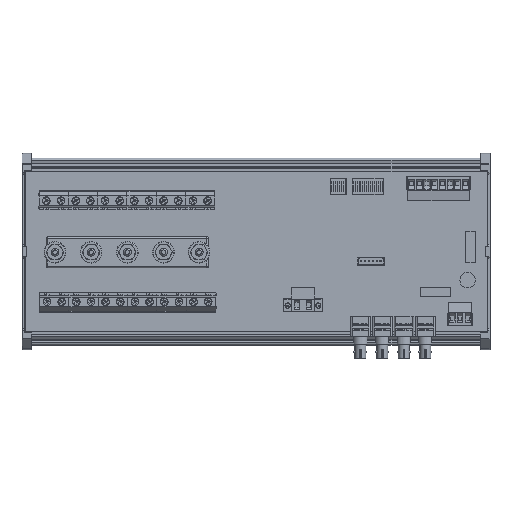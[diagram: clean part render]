
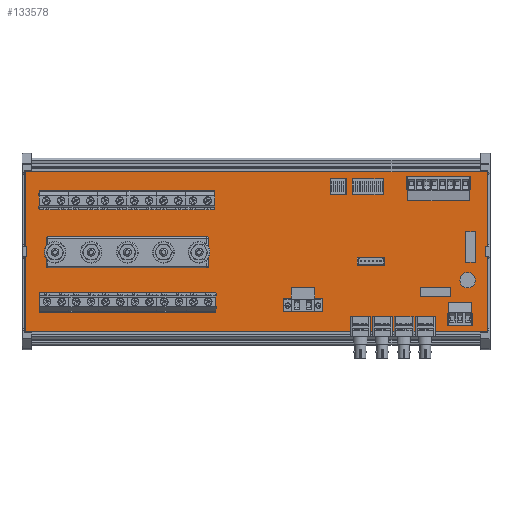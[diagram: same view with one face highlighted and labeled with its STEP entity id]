
A CAD part, top view. The second image highlights one B-rep face of the part: STEP entity #133578.
In plain terms, the highlighted planar face has unit normal (0, 0, 1).
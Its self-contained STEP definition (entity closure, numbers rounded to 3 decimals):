
#133264 = VERTEX_POINT('',#133265);
#133265 = CARTESIAN_POINT('',(0.,0.,1.6));
#133272 = PLANE('',#133273);
#133273 = AXIS2_PLACEMENT_3D('',#133274,#133275,#133276);
#133274 = CARTESIAN_POINT('',(0.,0.,0.));
#133275 = DIRECTION('',(1.,0.,0.));
#133276 = DIRECTION('',(0.,0.,1.));
#133284 = PLANE('',#133285);
#133285 = AXIS2_PLACEMENT_3D('',#133286,#133287,#133288);
#133286 = CARTESIAN_POINT('',(0.,0.,0.));
#133287 = DIRECTION('',(0.,1.,0.));
#133288 = DIRECTION('',(0.,0.,1.));
#133325 = VERTEX_POINT('',#133326);
#133326 = CARTESIAN_POINT('',(0.,108.,1.6));
#133340 = PLANE('',#133341);
#133341 = AXIS2_PLACEMENT_3D('',#133342,#133343,#133344);
#133342 = CARTESIAN_POINT('',(0.,108.,0.));
#133343 = DIRECTION('',(0.,1.,0.));
#133344 = DIRECTION('',(0.,0.,1.));
#133352 = EDGE_CURVE('',#133264,#133325,#133353,.T.);
#133353 = SURFACE_CURVE('',#133354,(#133358,#133365),.PCURVE_S1.);
#133354 = LINE('',#133355,#133356);
#133355 = CARTESIAN_POINT('',(0.,0.,1.6));
#133356 = VECTOR('',#133357,1.);
#133357 = DIRECTION('',(0.,1.,0.));
#133358 = PCURVE('',#133272,#133359);
#133359 = DEFINITIONAL_REPRESENTATION('',(#133360),#133364);
#133360 = LINE('',#133361,#133362);
#133361 = CARTESIAN_POINT('',(1.6,0.));
#133362 = VECTOR('',#133363,1.);
#133363 = DIRECTION('',(0.,-1.));
#133364 = ( GEOMETRIC_REPRESENTATION_CONTEXT(2) 
PARAMETRIC_REPRESENTATION_CONTEXT() REPRESENTATION_CONTEXT('2D SPACE',''
  ) );
#133365 = PCURVE('',#133366,#133371);
#133366 = PLANE('',#133367);
#133367 = AXIS2_PLACEMENT_3D('',#133368,#133369,#133370);
#133368 = CARTESIAN_POINT('',(0.,0.,1.6));
#133369 = DIRECTION('',(0.,0.,1.));
#133370 = DIRECTION('',(1.,0.,0.));
#133371 = DEFINITIONAL_REPRESENTATION('',(#133372),#133376);
#133372 = LINE('',#133373,#133374);
#133373 = CARTESIAN_POINT('',(0.,0.));
#133374 = VECTOR('',#133375,1.);
#133375 = DIRECTION('',(0.,1.));
#133376 = ( GEOMETRIC_REPRESENTATION_CONTEXT(2) 
PARAMETRIC_REPRESENTATION_CONTEXT() REPRESENTATION_CONTEXT('2D SPACE',''
  ) );
#133384 = VERTEX_POINT('',#133385);
#133385 = CARTESIAN_POINT('',(300.,0.,1.6));
#133392 = PLANE('',#133393);
#133393 = AXIS2_PLACEMENT_3D('',#133394,#133395,#133396);
#133394 = CARTESIAN_POINT('',(300.,0.,0.));
#133395 = DIRECTION('',(1.,0.,0.));
#133396 = DIRECTION('',(0.,0.,1.));
#133435 = VERTEX_POINT('',#133436);
#133436 = CARTESIAN_POINT('',(300.,108.,1.6));
#133457 = EDGE_CURVE('',#133384,#133435,#133458,.T.);
#133458 = SURFACE_CURVE('',#133459,(#133463,#133470),.PCURVE_S1.);
#133459 = LINE('',#133460,#133461);
#133460 = CARTESIAN_POINT('',(300.,0.,1.6));
#133461 = VECTOR('',#133462,1.);
#133462 = DIRECTION('',(0.,1.,0.));
#133463 = PCURVE('',#133392,#133464);
#133464 = DEFINITIONAL_REPRESENTATION('',(#133465),#133469);
#133465 = LINE('',#133466,#133467);
#133466 = CARTESIAN_POINT('',(1.6,0.));
#133467 = VECTOR('',#133468,1.);
#133468 = DIRECTION('',(0.,-1.));
#133469 = ( GEOMETRIC_REPRESENTATION_CONTEXT(2) 
PARAMETRIC_REPRESENTATION_CONTEXT() REPRESENTATION_CONTEXT('2D SPACE',''
  ) );
#133470 = PCURVE('',#133366,#133471);
#133471 = DEFINITIONAL_REPRESENTATION('',(#133472),#133476);
#133472 = LINE('',#133473,#133474);
#133473 = CARTESIAN_POINT('',(300.,0.));
#133474 = VECTOR('',#133475,1.);
#133475 = DIRECTION('',(0.,1.));
#133476 = ( GEOMETRIC_REPRESENTATION_CONTEXT(2) 
PARAMETRIC_REPRESENTATION_CONTEXT() REPRESENTATION_CONTEXT('2D SPACE',''
  ) );
#133503 = EDGE_CURVE('',#133264,#133384,#133504,.T.);
#133504 = SURFACE_CURVE('',#133505,(#133509,#133516),.PCURVE_S1.);
#133505 = LINE('',#133506,#133507);
#133506 = CARTESIAN_POINT('',(0.,0.,1.6));
#133507 = VECTOR('',#133508,1.);
#133508 = DIRECTION('',(1.,0.,0.));
#133509 = PCURVE('',#133284,#133510);
#133510 = DEFINITIONAL_REPRESENTATION('',(#133511),#133515);
#133511 = LINE('',#133512,#133513);
#133512 = CARTESIAN_POINT('',(1.6,0.));
#133513 = VECTOR('',#133514,1.);
#133514 = DIRECTION('',(0.,1.));
#133515 = ( GEOMETRIC_REPRESENTATION_CONTEXT(2) 
PARAMETRIC_REPRESENTATION_CONTEXT() REPRESENTATION_CONTEXT('2D SPACE',''
  ) );
#133516 = PCURVE('',#133366,#133517);
#133517 = DEFINITIONAL_REPRESENTATION('',(#133518),#133522);
#133518 = LINE('',#133519,#133520);
#133519 = CARTESIAN_POINT('',(0.,0.));
#133520 = VECTOR('',#133521,1.);
#133521 = DIRECTION('',(1.,0.));
#133522 = ( GEOMETRIC_REPRESENTATION_CONTEXT(2) 
PARAMETRIC_REPRESENTATION_CONTEXT() REPRESENTATION_CONTEXT('2D SPACE',''
  ) );
#133550 = EDGE_CURVE('',#133325,#133435,#133551,.T.);
#133551 = SURFACE_CURVE('',#133552,(#133556,#133563),.PCURVE_S1.);
#133552 = LINE('',#133553,#133554);
#133553 = CARTESIAN_POINT('',(0.,108.,1.6));
#133554 = VECTOR('',#133555,1.);
#133555 = DIRECTION('',(1.,0.,0.));
#133556 = PCURVE('',#133340,#133557);
#133557 = DEFINITIONAL_REPRESENTATION('',(#133558),#133562);
#133558 = LINE('',#133559,#133560);
#133559 = CARTESIAN_POINT('',(1.6,0.));
#133560 = VECTOR('',#133561,1.);
#133561 = DIRECTION('',(0.,1.));
#133562 = ( GEOMETRIC_REPRESENTATION_CONTEXT(2) 
PARAMETRIC_REPRESENTATION_CONTEXT() REPRESENTATION_CONTEXT('2D SPACE',''
  ) );
#133563 = PCURVE('',#133366,#133564);
#133564 = DEFINITIONAL_REPRESENTATION('',(#133565),#133569);
#133565 = LINE('',#133566,#133567);
#133566 = CARTESIAN_POINT('',(0.,108.));
#133567 = VECTOR('',#133568,1.);
#133568 = DIRECTION('',(1.,0.));
#133569 = ( GEOMETRIC_REPRESENTATION_CONTEXT(2) 
PARAMETRIC_REPRESENTATION_CONTEXT() REPRESENTATION_CONTEXT('2D SPACE',''
  ) );
#133578 = ADVANCED_FACE('',(#133579),#133366,.T.);
#133579 = FACE_BOUND('',#133580,.T.);
#133580 = EDGE_LOOP('',(#133581,#133582,#133583,#133584));
#133581 = ORIENTED_EDGE('',*,*,#133352,.F.);
#133582 = ORIENTED_EDGE('',*,*,#133503,.T.);
#133583 = ORIENTED_EDGE('',*,*,#133457,.T.);
#133584 = ORIENTED_EDGE('',*,*,#133550,.F.);
